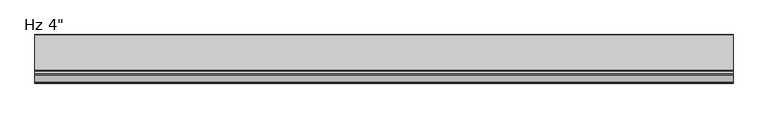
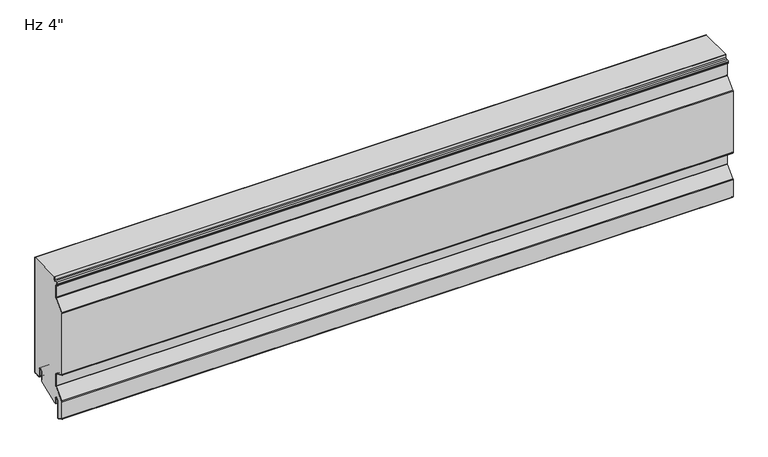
"""IFC4 building model written with IfcOpenShell, lengths in millimetres: plate geometry."""

from ifc_helpers import new_model, si_unit, point, frame, frame_2d, origin, place, context, project, spatial, polyline, circle_curve, trimmed, segment, composite_curve, outline, extrude, source, transform, mapped, element, save


def plate_45a50fa3(model_context):
    return source(origin(), model_context, "Body", "SweptSolid", [
        extrude(outline(composite_curve([segment(polyline([(-26.4011912, 19.05), (-26.4011912, -3.1976612), (-74.633822, -23.01875), (-76.7886912, -23.01875), (-76.7886912, -11.90625)]), True, "CONTINUOUS"), segment(trimmed(circle_curve(frame_2d((-81.7574412, -11.90625)), 4.96875), [point((-76.7886912, -11.90625))], [point((-86.7261912, -11.90625))], True, "CARTESIAN"), True, "CONTINUOUS"), segment(polyline([(-86.7261912, -11.90625), (-86.7261912, -48.8194049)]), True, "CONTINUOUS"), segment(trimmed(circle_curve(frame_2d((-88.1074412, -48.8194049)), 1.38125), [point((-86.7261912, -48.8194049))], [point((-88.6666208, -50.0824052))], False, "CARTESIAN"), True, "CONTINUOUS"), segment(polyline([(-88.6666208, -50.0824052), (-99.7779296, -45.1629946)]), True, "CONTINUOUS"), segment(trimmed(circle_curve(frame_2d((-99.21875, -43.8999943)), 1.38125), [point((-99.7779296, -45.1629946))], [point((-100.6, -43.8999943))], False, "CARTESIAN"), True, "CONTINUOUS"), segment(polyline([(-100.6, -43.8999943), (-100.6, -5.0536946)]), True, "CONTINUOUS"), segment(trimmed(circle_curve(frame_2d((-98.5012, -5.0536946)), 2.0988), [point((-100.6, -5.0536946))], [point((-100.0092077, -3.5939431))], False, "CARTESIAN"), True, "CONTINUOUS"), segment(polyline([(-100.0092077, -3.5939431), (-79.8145567, 17.2682996)]), True, "CONTINUOUS"), segment(trimmed(circle_curve(frame_2d((-81.6737, 19.0679503)), 2.5875), [point((-79.8145567, 17.2682996))], [point((-79.0862, 19.0679503))], True, "CARTESIAN"), True, "CONTINUOUS"), segment(polyline([(-79.0862, 19.0679503), (-79.0862, 45.5917981)]), True, "CONTINUOUS"), segment(trimmed(circle_curve(frame_2d((-81.6737, 45.5917981)), 2.5875), [point((-79.0862, 45.5917981))], [point((-80.6261871, 47.9577806))], True, "CARTESIAN"), True, "CONTINUOUS"), segment(polyline([(-80.6261871, 47.9577806), (-99.7779296, 56.4370054)]), True, "CONTINUOUS"), segment(trimmed(circle_curve(frame_2d((-99.21875, 57.7000057)), 1.38125), [point((-99.7779296, 56.4370054))], [point((-100.6, 57.7000057))], False, "CARTESIAN"), True, "CONTINUOUS"), segment(polyline([(-100.6, 57.7000057), (-100.6, 198.4367131)]), True, "CONTINUOUS"), segment(trimmed(circle_curve(frame_2d((-99.21875, 198.4367131)), 1.38125), [point((-100.6, 198.4367131))], [point((-100.2111912, 199.3973962))], False, "CARTESIAN"), True, "CONTINUOUS"), segment(polyline([(-100.2111912, 199.3973962), (-79.8145567, 220.4682996)]), True, "CONTINUOUS"), segment(trimmed(circle_curve(frame_2d((-81.6737, 222.2679503)), 2.5875), [point((-79.8145567, 220.4682996))], [point((-79.0862, 222.2679503))], True, "CARTESIAN"), True, "CONTINUOUS"), segment(polyline([(-79.0862, 222.2679503), (-79.0862, 248.7917981)]), True, "CONTINUOUS"), segment(trimmed(circle_curve(frame_2d((-81.6737, 248.7917981)), 2.5875), [point((-79.0862, 248.7917981))], [point((-80.6261871, 251.1577806))], True, "CARTESIAN"), True, "CONTINUOUS"), segment(polyline([(-80.6261871, 251.1577806), (-82.3166208, 251.9062016)]), True, "CONTINUOUS"), segment(trimmed(circle_curve(frame_2d((-81.7574412, 253.1692019)), 1.38125), [point((-82.3166208, 251.9062016))], [point((-83.1386912, 253.1692019))], False, "CARTESIAN"), True, "CONTINUOUS"), segment(polyline([(-83.1386912, 253.1692019), (-83.1386912, 255.4967085)]), True, "CONTINUOUS"), segment(trimmed(circle_curve(frame_2d((-81.7574412, 255.4967085)), 1.38125), [point((-83.1386912, 255.4967085))], [point((-81.8297302, 256.8760655))], False, "CARTESIAN"), True, "CONTINUOUS"), segment(polyline([(-81.8297302, 256.8760655), (-76.0657719, 257.1781418)]), True, "CONTINUOUS"), segment(trimmed(circle_curve(frame_2d((-76.2011912, 259.7620957)), 2.5875), [point((-76.0657719, 257.1781418))], [point((-73.6136912, 259.7620957))], True, "CARTESIAN"), True, "CONTINUOUS"), segment(polyline([(-73.6136912, 259.7620957), (-73.6136912, 266.4), (-1.0011912, 266.4), (-1.0011912, 3.175)]), True, "CONTINUOUS"), segment(trimmed(circle_curve(frame_2d((-2.3824412, 3.175)), 1.38125), [point((-1.0011912, 3.175))], [point((-2.3824412, 1.79375))], False, "CARTESIAN"), True, "CONTINUOUS"), segment(polyline([(-2.3824412, 1.79375), (-15.0824412, 1.79375)]), True, "CONTINUOUS"), segment(trimmed(circle_curve(frame_2d((-15.0824412, 3.175)), 1.38125), [point((-15.0824412, 1.79375))], [point((-16.4636912, 3.175))], False, "CARTESIAN"), True, "CONTINUOUS"), segment(polyline([(-16.4636912, 3.175), (-16.4636912, 19.05)]), True, "CONTINUOUS"), segment(trimmed(circle_curve(frame_2d((-21.4324412, 19.05)), 4.96875), [point((-16.4636912, 19.05))], [point((-26.4011912, 19.05))], True, "CARTESIAN"), True, "CONTINUOUS")], self_intersect=False)), frame((-730.0, 0.0, 0.0), z_axis=(1.0, 0.0, 0.0), x_axis=(0.0, 1.0, 0.0)), (0.0, 0.0, 1.0), 1460.0),
        extrude(outline(composite_curve([segment(polyline([(-25.4, 0.79375), (-26.4, 0.79375), (-26.4, 19.05)]), True, "CONTINUOUS"), segment(trimmed(circle_curve(frame_2d((-21.43125, 19.05)), 4.96875), [point((-26.4, 19.05))], [point((-16.4625, 19.05))], False, "CARTESIAN"), True, "CONTINUOUS"), segment(polyline([(-16.4625, 19.05), (-16.4625, 3.175)]), True, "CONTINUOUS"), segment(trimmed(circle_curve(frame_2d((-15.08125, 3.175)), 1.38125), [point((-16.4625, 3.175))], [point((-15.08125, 1.79375))], True, "CARTESIAN"), True, "CONTINUOUS"), segment(polyline([(-15.08125, 1.79375), (-2.38125, 1.79375)]), True, "CONTINUOUS"), segment(trimmed(circle_curve(frame_2d((-2.38125, 3.175)), 1.38125), [point((-2.38125, 1.79375))], [point((-1.0, 3.175))], True, "CARTESIAN"), True, "CONTINUOUS"), segment(polyline([(-1.0, 3.175), (-1.0, 266.4), (0.0, 266.4), (0.0, 3.175)]), True, "CONTINUOUS"), segment(trimmed(circle_curve(frame_2d((-2.38125, 3.175)), 2.38125), [point((0.0, 3.175))], [point((-2.38125, 0.79375))], False, "CARTESIAN"), True, "CONTINUOUS"), segment(polyline([(-2.38125, 0.79375), (-15.08125, 0.79375)]), True, "CONTINUOUS"), segment(trimmed(circle_curve(frame_2d((-15.08125, 3.175)), 2.38125), [point((-15.08125, 0.79375))], [point((-17.4625, 3.175))], False, "CARTESIAN"), True, "CONTINUOUS"), segment(polyline([(-17.4625, 3.175), (-17.4625, 19.05)]), True, "CONTINUOUS"), segment(trimmed(circle_curve(frame_2d((-21.43125, 19.05)), 3.96875), [point((-17.4625, 19.05))], [point((-25.4, 19.05))], True, "CARTESIAN"), True, "CONTINUOUS"), segment(polyline([(-25.4, 19.05), (-25.4, 0.79375)]), True, "CONTINUOUS")], self_intersect=False)), frame((-730.0, 0.0, 0.0), z_axis=(1.0, 0.0, 0.0), x_axis=(0.0, 1.0, 0.0)), (0.0, 0.0, 1.0), 1460.0),
        extrude(outline(composite_curve([segment(polyline([(-85.7261912, -11.90625), (-85.7261912, -48.8194049)]), True, "CONTINUOUS"), segment(trimmed(circle_curve(frame_2d((-88.1074412, -48.8194049)), 2.38125), [point((-85.7261912, -48.8194049))], [point((-89.0714567, -50.9967946))], False, "CARTESIAN"), True, "CONTINUOUS"), segment(polyline([(-89.0714567, -50.9967946), (-100.1827655, -46.0773839)]), True, "CONTINUOUS"), segment(trimmed(circle_curve(frame_2d((-99.21875, -43.8999943)), 2.38125), [point((-100.1827655, -46.0773839))], [point((-101.6, -43.8999943))], False, "CARTESIAN"), True, "CONTINUOUS"), segment(polyline([(-101.6, -43.8999943), (-101.6, -5.0536946)]), True, "CONTINUOUS"), segment(trimmed(circle_curve(frame_2d((-98.5012, -5.0536946)), 3.0988), [point((-101.6, -5.0536946))], [point((-100.7277172, -2.8984259))], False, "CARTESIAN"), True, "CONTINUOUS"), segment(polyline([(-100.7277172, -2.8984259), (-80.5330662, 17.9638168)]), True, "CONTINUOUS"), segment(trimmed(circle_curve(frame_2d((-81.6737, 19.0679503)), 1.5875), [point((-80.5330662, 17.9638168))], [point((-80.0862, 19.0679503))], True, "CARTESIAN"), True, "CONTINUOUS"), segment(polyline([(-80.0862, 19.0679503), (-80.0862, 45.5917981)]), True, "CONTINUOUS"), segment(trimmed(circle_curve(frame_2d((-81.6737, 45.5917981)), 1.5875), [point((-80.0862, 45.5917981))], [point((-81.031023, 47.0433912))], True, "CARTESIAN"), True, "CONTINUOUS"), segment(polyline([(-81.031023, 47.0433912), (-100.1827655, 55.5226161)]), True, "CONTINUOUS"), segment(trimmed(circle_curve(frame_2d((-99.21875, 57.7000057)), 2.38125), [point((-100.1827655, 55.5226161))], [point((-101.6, 57.7000057))], False, "CARTESIAN"), True, "CONTINUOUS"), segment(polyline([(-101.6, 57.7000057), (-101.6, 198.4367131)]), True, "CONTINUOUS"), segment(trimmed(circle_curve(frame_2d((-99.21875, 198.4367131)), 2.38125), [point((-101.6, 198.4367131))], [point((-100.9297007, 200.0929134))], False, "CARTESIAN"), True, "CONTINUOUS"), segment(polyline([(-100.9297007, 200.0929134), (-80.5330662, 221.1638168)]), True, "CONTINUOUS"), segment(trimmed(circle_curve(frame_2d((-81.6737, 222.2679503)), 1.5875), [point((-80.5330662, 221.1638168))], [point((-80.0862, 222.2679503))], True, "CARTESIAN"), True, "CONTINUOUS"), segment(polyline([(-80.0862, 222.2679503), (-80.0862, 248.7917981)]), True, "CONTINUOUS"), segment(trimmed(circle_curve(frame_2d((-81.6737, 248.7917981)), 1.5875), [point((-80.0862, 248.7917981))], [point((-81.031023, 250.2433912))], True, "CARTESIAN"), True, "CONTINUOUS"), segment(polyline([(-81.031023, 250.2433912), (-82.7214567, 250.9918123)]), True, "CONTINUOUS"), segment(trimmed(circle_curve(frame_2d((-81.7574412, 253.1692019)), 2.38125), [point((-82.7214567, 250.9918123))], [point((-84.1386912, 253.1692019))], False, "CARTESIAN"), True, "CONTINUOUS"), segment(polyline([(-84.1386912, 253.1692019), (-84.1386912, 255.4967085)]), True, "CONTINUOUS"), segment(trimmed(circle_curve(frame_2d((-81.7574412, 255.4967085)), 2.38125), [point((-84.1386912, 255.4967085))], [point((-81.8820662, 257.8746951))], False, "CARTESIAN"), True, "CONTINUOUS"), segment(polyline([(-81.8820662, 257.8746951), (-76.1181078, 258.1767713)]), True, "CONTINUOUS"), segment(trimmed(circle_curve(frame_2d((-76.2011912, 259.7620957)), 1.5875), [point((-76.1181078, 258.1767713))], [point((-74.6136912, 259.7620957))], True, "CARTESIAN"), True, "CONTINUOUS"), segment(polyline([(-74.6136912, 259.7620957), (-74.6136912, 266.4), (-73.6136912, 266.4), (-73.6136912, 259.7620957)]), True, "CONTINUOUS"), segment(trimmed(circle_curve(frame_2d((-76.2011912, 259.7620957)), 2.5875), [point((-73.6136912, 259.7620957))], [point((-76.0657719, 257.1781418))], False, "CARTESIAN"), True, "CONTINUOUS"), segment(polyline([(-76.0657719, 257.1781418), (-81.8297302, 256.8760655)]), True, "CONTINUOUS"), segment(trimmed(circle_curve(frame_2d((-81.7574412, 255.4967085)), 1.38125), [point((-81.8297302, 256.8760655))], [point((-83.1386912, 255.4967085))], True, "CARTESIAN"), True, "CONTINUOUS"), segment(polyline([(-83.1386912, 255.4967085), (-83.1386912, 253.1692019)]), True, "CONTINUOUS"), segment(trimmed(circle_curve(frame_2d((-81.7574412, 253.1692019)), 1.38125), [point((-83.1386912, 253.1692019))], [point((-82.3166208, 251.9062016))], True, "CARTESIAN"), True, "CONTINUOUS"), segment(polyline([(-82.3166208, 251.9062016), (-80.6261871, 251.1577806)]), True, "CONTINUOUS"), segment(trimmed(circle_curve(frame_2d((-81.6737, 248.7917981)), 2.5875), [point((-80.6261871, 251.1577806))], [point((-79.0862, 248.7917981))], False, "CARTESIAN"), True, "CONTINUOUS"), segment(polyline([(-79.0862, 248.7917981), (-79.0862, 222.2679503)]), True, "CONTINUOUS"), segment(trimmed(circle_curve(frame_2d((-81.6737, 222.2679503)), 2.5875), [point((-79.0862, 222.2679503))], [point((-79.8145567, 220.4682996))], False, "CARTESIAN"), True, "CONTINUOUS"), segment(polyline([(-79.8145567, 220.4682996), (-100.2111912, 199.3973962)]), True, "CONTINUOUS"), segment(trimmed(circle_curve(frame_2d((-99.21875, 198.4367131)), 1.38125), [point((-100.2111912, 199.3973962))], [point((-100.6, 198.4367131))], True, "CARTESIAN"), True, "CONTINUOUS"), segment(polyline([(-100.6, 198.4367131), (-100.6, 57.7000057)]), True, "CONTINUOUS"), segment(trimmed(circle_curve(frame_2d((-99.21875, 57.7000057)), 1.38125), [point((-100.6, 57.7000057))], [point((-99.7779296, 56.4370054))], True, "CARTESIAN"), True, "CONTINUOUS"), segment(polyline([(-99.7779296, 56.4370054), (-80.6261871, 47.9577806)]), True, "CONTINUOUS"), segment(trimmed(circle_curve(frame_2d((-81.6737, 45.5917981)), 2.5875), [point((-80.6261871, 47.9577806))], [point((-79.0862, 45.5917981))], False, "CARTESIAN"), True, "CONTINUOUS"), segment(polyline([(-79.0862, 45.5917981), (-79.0862, 19.0679503)]), True, "CONTINUOUS"), segment(trimmed(circle_curve(frame_2d((-81.6737, 19.0679503)), 2.5875), [point((-79.0862, 19.0679503))], [point((-79.8145567, 17.2682996))], False, "CARTESIAN"), True, "CONTINUOUS"), segment(polyline([(-79.8145567, 17.2682996), (-100.0092077, -3.5939431)]), True, "CONTINUOUS"), segment(trimmed(circle_curve(frame_2d((-98.5012, -5.0536946)), 2.0988), [point((-100.0092077, -3.5939431))], [point((-100.6, -5.0536946))], True, "CARTESIAN"), True, "CONTINUOUS"), segment(polyline([(-100.6, -5.0536946), (-100.6, -43.8999943)]), True, "CONTINUOUS"), segment(trimmed(circle_curve(frame_2d((-99.21875, -43.8999943)), 1.38125), [point((-100.6, -43.8999943))], [point((-99.7779296, -45.1629946))], True, "CARTESIAN"), True, "CONTINUOUS"), segment(polyline([(-99.7779296, -45.1629946), (-88.6666208, -50.0824052)]), True, "CONTINUOUS"), segment(trimmed(circle_curve(frame_2d((-88.1074412, -48.8194049)), 1.38125), [point((-88.6666208, -50.0824052))], [point((-86.7261912, -48.8194049))], True, "CARTESIAN"), True, "CONTINUOUS"), segment(polyline([(-86.7261912, -48.8194049), (-86.7261912, -11.90625)]), True, "CONTINUOUS"), segment(trimmed(circle_curve(frame_2d((-81.7574412, -11.90625)), 4.96875), [point((-86.7261912, -11.90625))], [point((-76.7886912, -11.90625))], False, "CARTESIAN"), True, "CONTINUOUS"), segment(polyline([(-76.7886912, -11.90625), (-76.7886912, -23.01875), (-77.7886912, -23.01875), (-77.7886912, -11.90625)]), True, "CONTINUOUS"), segment(trimmed(circle_curve(frame_2d((-81.7574412, -11.90625)), 3.96875), [point((-77.7886912, -11.90625))], [point((-85.7261912, -11.90625))], True, "CARTESIAN"), True, "CONTINUOUS")], self_intersect=False)), frame((-730.0, 0.0, 0.0), z_axis=(1.0, 0.0, 0.0), x_axis=(0.0, 1.0, 0.0)), (0.0, 0.0, 1.0), 1460.0),
    ])


if __name__ == "__main__":
    model = new_model("IFC4")
    model_context = context("Model", 3, world=origin())
    ifc_project = project(units=[si_unit("LENGTHUNIT", "METRE", prefix="MILLI")], contexts=[model_context])
    site = spatial("IfcSite", under=ifc_project)
    building = spatial("IfcBuilding", under=site)
    placement = place(None, origin())
    plate_shape = plate_45a50fa3(model_context)
    element("IfcPlate", 1, ObjectType="KIP-12-DWR-R19-CP-Hz-A : Hz 4\"", at=placement, inside=building, context=model_context, shape_type="MappedRepresentation", body=[
        mapped(plate_shape, transform((0.0, 0.0, 0.0), x_axis=(1.0, 0.0, 0.0), y_axis=(0.0, 1.0, 0.0), z_axis=(0.0, 0.0, 1.0))),
    ])
    save(model, "model.ifc")
